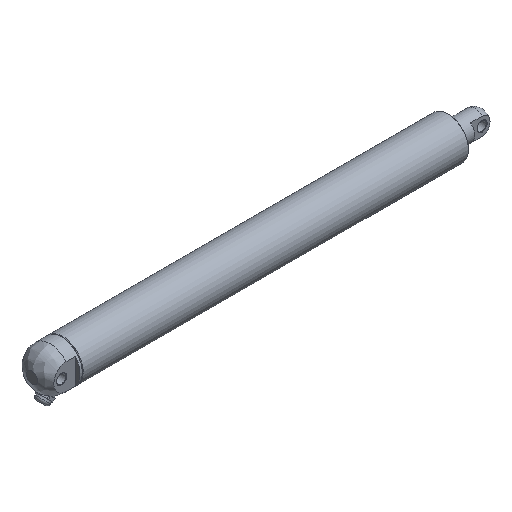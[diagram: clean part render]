
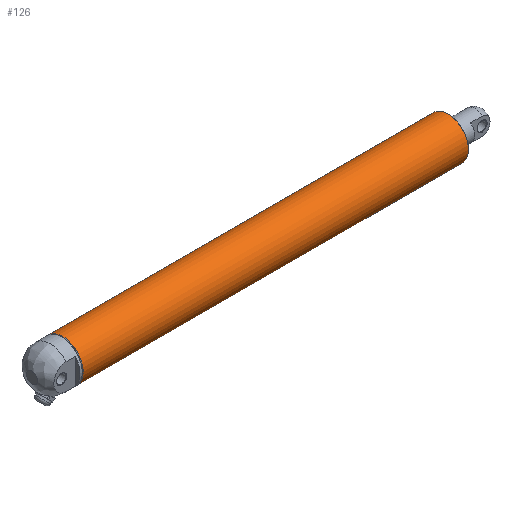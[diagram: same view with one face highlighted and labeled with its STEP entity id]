
A CAD part, isometric view. The second image highlights one B-rep face of the part: STEP entity #126.
In plain terms, the highlighted cylindrical face has radius 22.5 mm (diameter 45 mm), a full revolution.
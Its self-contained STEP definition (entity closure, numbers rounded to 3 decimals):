
#126 = ADVANCED_FACE( '', ( #301, #302 ), #303, .T. );
#301 = FACE_OUTER_BOUND( '', #563, .T. );
#302 = FACE_OUTER_BOUND( '', #564, .T. );
#303 = CYLINDRICAL_SURFACE( '', #565, 22.5 );
#563 = EDGE_LOOP( '', ( #887 ) );
#564 = EDGE_LOOP( '', ( #888 ) );
#565 = AXIS2_PLACEMENT_3D( '', #889, #890, #891 );
#887 = ORIENTED_EDGE( '', *, *, #1323, .T. );
#888 = ORIENTED_EDGE( '', *, *, #1335, .T. );
#889 = CARTESIAN_POINT( '', ( 423., 0., 0. ) );
#890 = DIRECTION( '', ( 1., 0., 0. ) );
#891 = DIRECTION( '', ( 0., 0., 1. ) );
#1323 = EDGE_CURVE( '', #1560, #1560, #1561, .F. );
#1335 = EDGE_CURVE( '', #1578, #1578, #1579, .T. );
#1560 = VERTEX_POINT( '', #1966 );
#1561 = CIRCLE( '', #1967, 22.5 );
#1578 = VERTEX_POINT( '', #1989 );
#1579 = CIRCLE( '', #1990, 22.5 );
#1966 = CARTESIAN_POINT( '', ( 0.5, 0., 22.5 ) );
#1967 = AXIS2_PLACEMENT_3D( '', #2445, #2446, #2447 );
#1989 = CARTESIAN_POINT( '', ( 422.5, 0., 22.5 ) );
#1990 = AXIS2_PLACEMENT_3D( '', #2465, #2466, #2467 );
#2445 = CARTESIAN_POINT( '', ( 0.5, 0., 0. ) );
#2446 = DIRECTION( '', ( -1., 0., 0. ) );
#2447 = DIRECTION( '', ( 0., 0., 1. ) );
#2465 = CARTESIAN_POINT( '', ( 422.5, 0., 0. ) );
#2466 = DIRECTION( '', ( -1., 0., 0. ) );
#2467 = DIRECTION( '', ( 0., 0., 1. ) );
